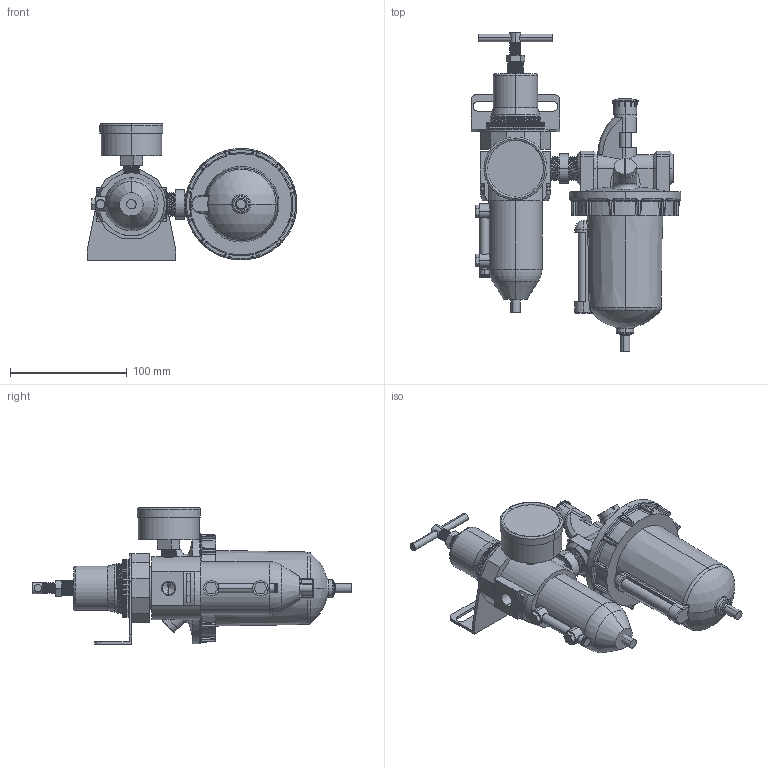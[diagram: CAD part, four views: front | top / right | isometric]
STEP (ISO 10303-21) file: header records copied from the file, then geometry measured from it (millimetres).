
FILE_DESCRIPTION (( 'STEP AP203' ), '1' );
FILE_NAME ('U668W-04#YB#.STEP', '2016-01-14T17:14:21', ( '' ), ( '' ), 'SwSTEP 2.0', 'SolidWorks 2014', '' );
FILE_SCHEMA (( 'CONFIG_CONTROL_DESIGN' ));
Length unit declared in the file: millimetre
Products named in the file (27): U668W-04#YB#; D011W-6; 50-P-AD=1-4PT-1; 1-2-圓; D011W-4; L606-W-06-2; L606-W-06-5; L606-W-04-分割; R011-1; R119-02-6; L606-W-04; KWSAR10Y57; B012W-02#YGB#; KWR10X51; 50-P-AD=1-4PT-2; L606-W-06-4; B011W-1; KWSAR10Y57-1; L606-W-06-3; L606W-04; R011-上半部; R119-02-7; 50-P-AD=1-4PT.SLDPRT; D011W-5; D011W-04-刻度計; L606-W-04-1; R119-02-5
Assembly tree (29 placements, depth 5):
  U668W-04#YB#
    B012W-02#YGB#
      B011W-1
      50-P-AD=1-4PT.SLDPRT
        50-P-AD=1-4PT-1
        50-P-AD=1-4PT-2
      L606-W-06-5
      D011W-04-刻度計
        D011W-5  x2
        D011W-4
        D011W-6
      R011-上半部
        KWSAR10Y57
          KWSAR10Y57-1
          KWR10X51
        R011-1
        R119-02-5
        R119-02-6
        R119-02-7
    1-2-圓
    L606W-04
      L606-W-06-2
      L606-W-06-5
      L606-W-06-4
      L606-W-06-3  x2
      L606-W-04
      L606-W-04-1
      L606-W-04-分割
Bounding box: 179.75 x 274 x 117 mm (x, y, z)
Volume: 931252.7 mm3; surface area: 144825.6 mm2
Topology: 23 solids, 23 shells, 1241 faces, 3313 edges, 2110 vertices
Faces by surface type: plane 597, cylinder 337, bspline 125, cone 104, torus 45, sphere 33
Entity records: 56020 total; most frequent: CARTESIAN_POINT 24324, ORIENTED_EDGE 6438, DIRECTION 5621, EDGE_CURVE 3219, VERTEX_POINT 2073, AXIS2_PLACEMENT_3D 1981, LINE 1659, VECTOR 1659
